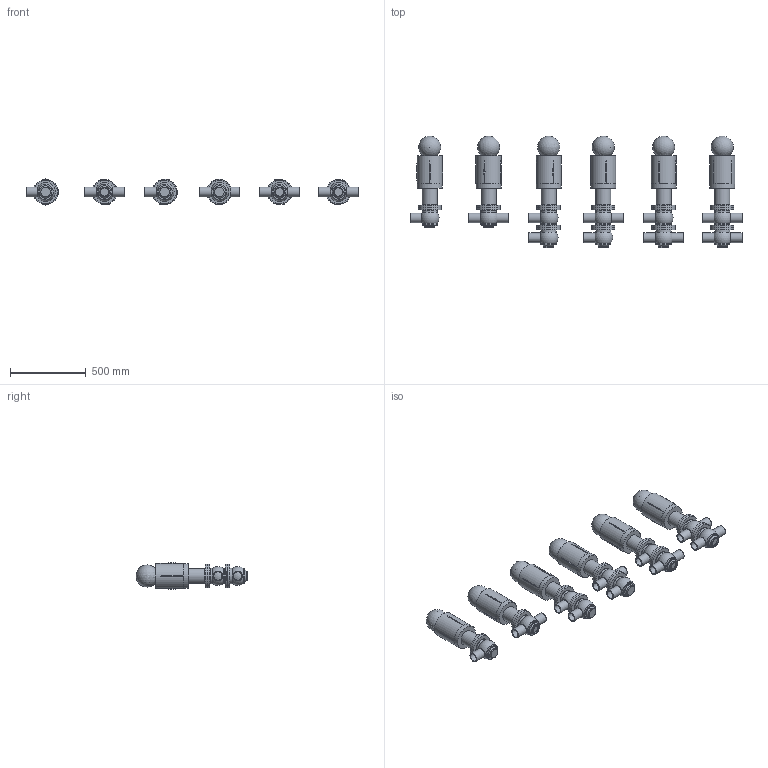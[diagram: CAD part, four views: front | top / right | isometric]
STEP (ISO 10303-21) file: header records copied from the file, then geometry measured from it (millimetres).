
FILE_DESCRIPTION(/* description */ (''),/* implementation_level */ '2;1');
FILE_NAME(/* name */ 'C:\Users\marz-m\Desktop\PDF\BBZQ 3D STEP\BBZQ-DN63.5-CIL.156.stp',/* time_stamp */ '2018-04-13T15:16:01+02:00',/* author */ ('marz-m'),/* organization */ (''),/* preprocessor_version */ 'ST-DEVELOPER v17',/* originating_system */ 'Autodesk Inventor 2018',/* authorisation */ '');
FILE_SCHEMA (('AUTOMOTIVE_DESIGN { 1 0 10303 214 3 1 1 }'));
Length unit declared in the file: millimetre
Products named in the file (8): BBZQ-DN63.5-CIL.156; ASSEMBLAGGIO-DN65-CIL108--156; CIL156; SAGOMA-GIOTTO-; COR-INF-L-BBZQ-DN63.5; CORPO SUP- DN63.5 L; CORPO SUP- DN63.5 T; COR-INF-T-BBZQ-DN63.5
Assembly tree (28 placements, depth 2):
  BBZQ-DN63.5-CIL.156
    ASSEMBLAGGIO-DN65-CIL108--156  x6
    COR-INF-L-BBZQ-DN63.5  x3
    COR-INF-T-BBZQ-DN63.5  x3
    CORPO SUP- DN63.5 L  x2
    CORPO SUP- DN63.5 T  x2
    CIL156  x6
    SAGOMA-GIOTTO-  x6
Bounding box: 2186.25 x 734.97 x 172.04 mm (x, y, z)
Volume: 56338417.2 mm3; surface area: 3354250.9 mm2
Topology: 28 solids, 28 shells, 416 faces, 1039 edges, 768 vertices
Faces by surface type: cylinder 121, plane 112, cone 78, torus 50, sphere 31, bspline 24
Full cylindrical faces by diameter (mm): 20 x12, 53.5 x18, 63.5 x21, 76 x6, 77 x6, 100 x6, 101 x20, 154 x20, 164.5 x6, 166 x6
Entity records: 4181 total; most frequent: CARTESIAN_POINT 921, DIRECTION 730, ORIENTED_EDGE 540, AXIS2_PLACEMENT_3D 343, EDGE_CURVE 270, VERTEX_POINT 202, CIRCLE 200, EDGE_LOOP 140
